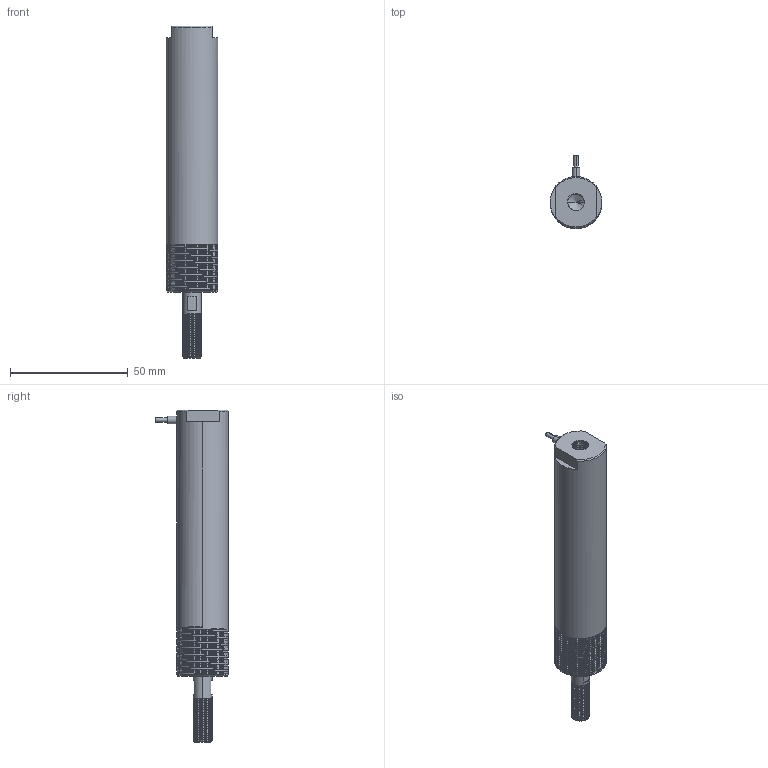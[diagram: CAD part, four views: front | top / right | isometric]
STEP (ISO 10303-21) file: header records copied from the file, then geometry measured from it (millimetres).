
FILE_DESCRIPTION (( 'STEP AP214' ), '1' );
FILE_NAME ('100M22压电促动器3D图.STEP', '2022-12-14T02:36:15', ( 'Sky123.Org' ), ( 'Sky123.Org' ), 'SwSTEP 2.0', 'SolidWorks 2016', '' );
FILE_SCHEMA (( 'AUTOMOTIVE_DESIGN' ));
Length unit declared in the file: millimetre
Products named in the file (1): 100M22压电促动器3D图
Bounding box: 22 x 31 x 141 mm (x, y, z)
Volume: 43547.2 mm3; surface area: 10167.5 mm2
Topology: 1 solids, 1 shells, 149 faces, 413 edges, 270 vertices
Faces by surface type: cylinder 112, plane 19, cone 9, bspline 9
Entity records: 13270 total; most frequent: CARTESIAN_POINT 9950, ORIENTED_EDGE 822, DIRECTION 488, EDGE_CURVE 411, VERTEX_POINT 270, AXIS2_PLACEMENT_3D 170, EDGE_LOOP 155, ADVANCED_FACE 149
